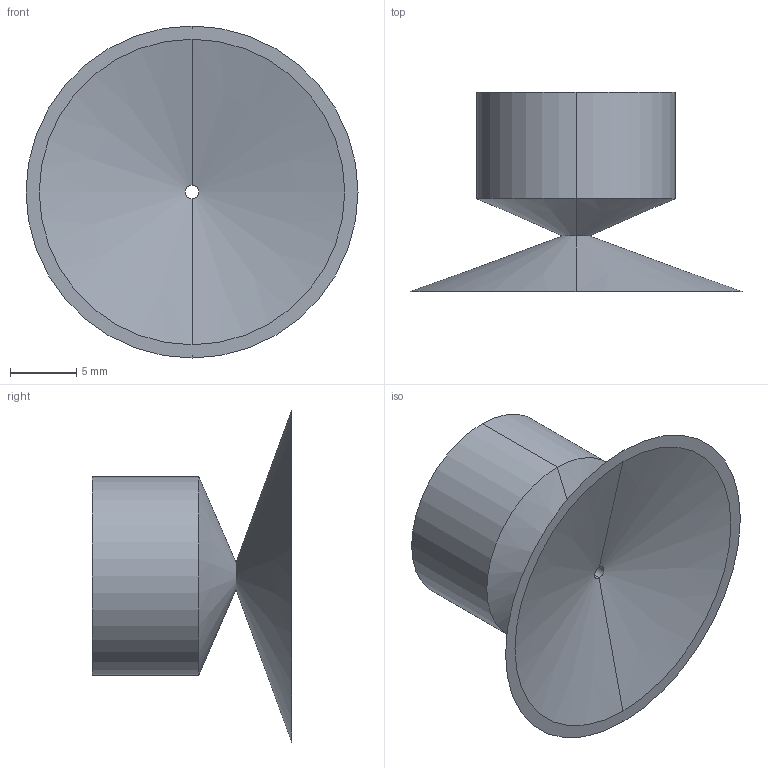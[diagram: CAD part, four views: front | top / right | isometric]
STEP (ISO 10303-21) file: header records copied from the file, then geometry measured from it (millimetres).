
FILE_DESCRIPTION (( 'STEP AP214' ), '1' );
FILE_NAME ('VSH-M25.STEP', '2019-11-30T09:13:23', ( '微软用户' ), ( '微软中国' ), 'SwSTEP 2.0', 'SolidWorks 2016', '' );
FILE_SCHEMA (( 'AUTOMOTIVE_DESIGN' ));
Length unit declared in the file: millimetre
Products named in the file (1): VSH-M25
Bounding box: 25 x 15 x 25 mm (x, y, z)
Volume: 1472.7 mm3; surface area: 2097.9 mm2
Topology: 1 solids, 1 shells, 18 faces, 36 edges, 22 vertices
Faces by surface type: cylinder 8, cone 6, plane 4
Entity records: 512 total; most frequent: DIRECTION 96, CARTESIAN_POINT 77, ORIENTED_EDGE 72, AXIS2_PLACEMENT_3D 41, EDGE_CURVE 36, EDGE_LOOP 22, CIRCLE 22, VERTEX_POINT 22
